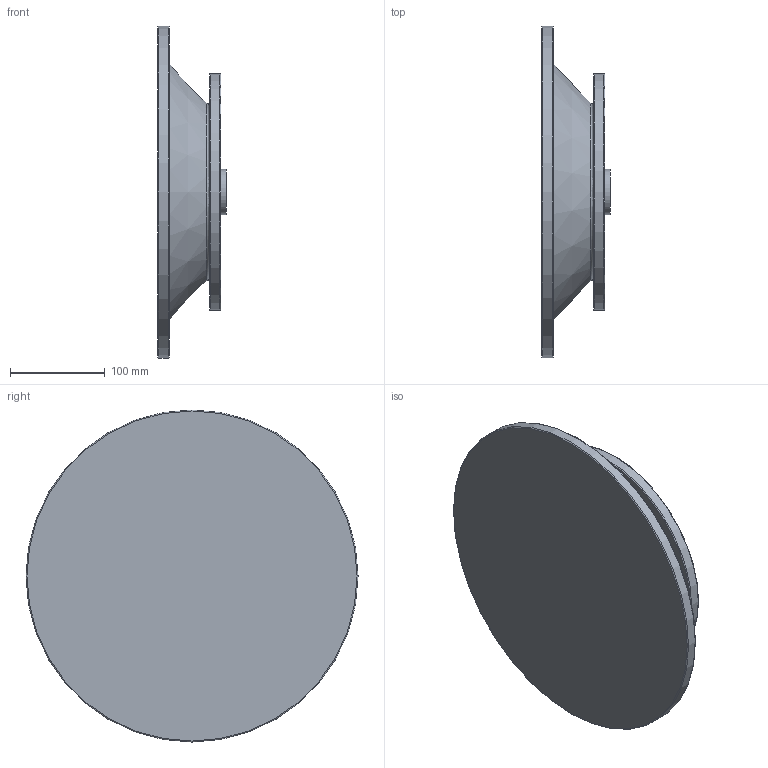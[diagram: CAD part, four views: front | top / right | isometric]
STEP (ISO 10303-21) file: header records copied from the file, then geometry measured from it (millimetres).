
FILE_DESCRIPTION((''),'2;1');
FILE_NAME('D:\PAWEŁ\ZLECENIA\2011 DualSystem\Przekładnie DR\DR100\STEP\100-112_B5_L66,5.stp','2012-06-11T12:29:37',('admin'),(''),'Autodesk Inventor 2009','Autodesk Inventor 2009','');
FILE_SCHEMA(('AUTOMOTIVE_DESIGN { 1 0 10303 214 1 1 1 1 }'));
Length unit declared in the file: millimetre
Products named in the file (1): 100-112_B5_L66,5
Bounding box: 72 x 350 x 350 mm (x, y, z)
Volume: 1800870.9 mm3; surface area: 360962.7 mm2
Topology: 1 solids, 1 shells, 30 faces, 58 edges, 36 vertices
Faces by surface type: plane 11, cylinder 6, bspline 6, torus 5, cone 2
Full cylindrical faces by diameter (mm): 48 x1, 162.523 x1, 180 x1, 250 x1, 350 x1
Entity records: 895 total; most frequent: CARTESIAN_POINT 281, DIRECTION 120, ORIENTED_EDGE 80, EDGE_LOOP 62, AXIS2_PLACEMENT_3D 55, EDGE_CURVE 40, VERTEX_POINT 36, FACE_BOUND 32
